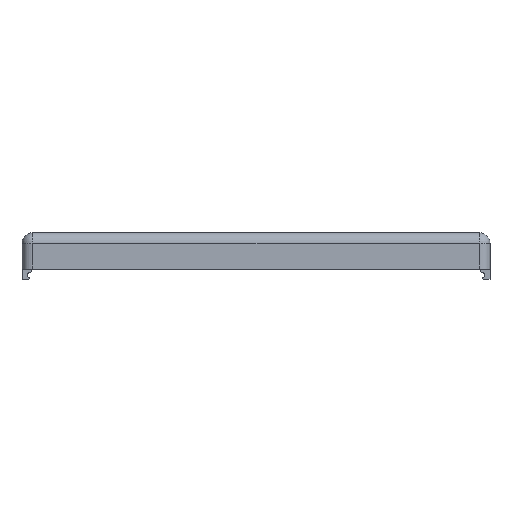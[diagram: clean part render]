
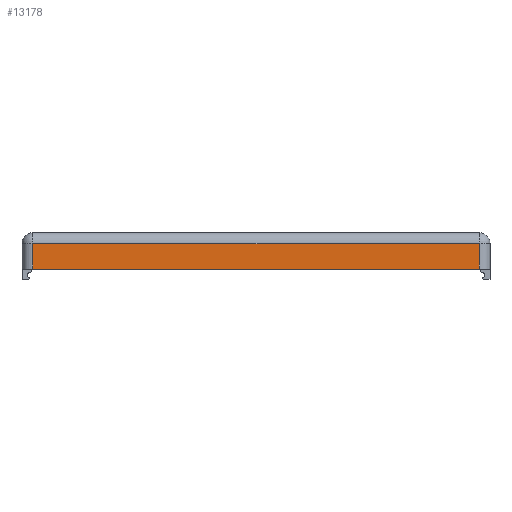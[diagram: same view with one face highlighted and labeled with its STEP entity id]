
A CAD part, front view. The second image highlights one B-rep face of the part: STEP entity #13178.
In plain terms, the highlighted planar face has unit normal (0, -1, 0).
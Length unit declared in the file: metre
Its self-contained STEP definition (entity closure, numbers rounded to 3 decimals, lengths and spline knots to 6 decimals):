
#3103=ORIENTED_EDGE('',*,*,#6405,.F.);
#3104=ORIENTED_EDGE('',*,*,#6390,.T.);
#3105=ORIENTED_EDGE('',*,*,#6404,.F.);
#3106=ORIENTED_EDGE('',*,*,#6406,.F.);
#6390=EDGE_CURVE('',#8120,#8119,#9181,.T.);
#6404=EDGE_CURVE('',#8125,#8119,#9189,.T.);
#6405=EDGE_CURVE('',#8120,#8126,#9190,.T.);
#6406=EDGE_CURVE('',#8126,#8125,#9191,.T.);
#8119=VERTEX_POINT('',#21916);
#8120=VERTEX_POINT('',#21918);
#8125=VERTEX_POINT('',#21937);
#8126=VERTEX_POINT('',#21946);
#9181=LINE('',#21917,#10417);
#9189=LINE('',#21941,#10425);
#9190=LINE('',#21945,#10426);
#9191=LINE('',#21947,#10427);
#10417=VECTOR('',#17339,1.);
#10425=VECTOR('',#17367,1.);
#10426=VECTOR('',#17374,1.);
#10427=VECTOR('',#17375,1.);
#11207=EDGE_LOOP('',(#3103,#3104,#3105,#3106));
#12107=FACE_BOUND('',#11207,.T.);
#12773=PLANE('',#14364);
#13178=ADVANCED_FACE('',(#12107),#12773,.F.);
#14364=AXIS2_PLACEMENT_3D('',#21944,#17372,#17373);
#17339=DIRECTION('',(1.,0.,0.));
#17367=DIRECTION('',(0.,0.,-1.));
#17372=DIRECTION('',(0.,1.,0.));
#17373=DIRECTION('',(0.,0.,1.));
#17374=DIRECTION('',(0.,0.,1.));
#17375=DIRECTION('',(1.,0.,0.));
#21916=CARTESIAN_POINT('',(0.123139,-0.151319,0.0001));
#21917=CARTESIAN_POINT('',(0.061,-0.151319,0.0001));
#21918=CARTESIAN_POINT('',(-0.001219,-0.151319,0.0001));
#21937=CARTESIAN_POINT('',(0.123139,-0.151319,0.0072));
#21941=CARTESIAN_POINT('',(0.123139,-0.151319,-0.01357));
#21944=CARTESIAN_POINT('',(0.061,-0.151319,-0.01552));
#21945=CARTESIAN_POINT('',(-0.001219,-0.151319,-0.01552));
#21946=CARTESIAN_POINT('',(-0.001219,-0.151319,0.0072));
#21947=CARTESIAN_POINT('',(0.061,-0.151319,0.0072));
